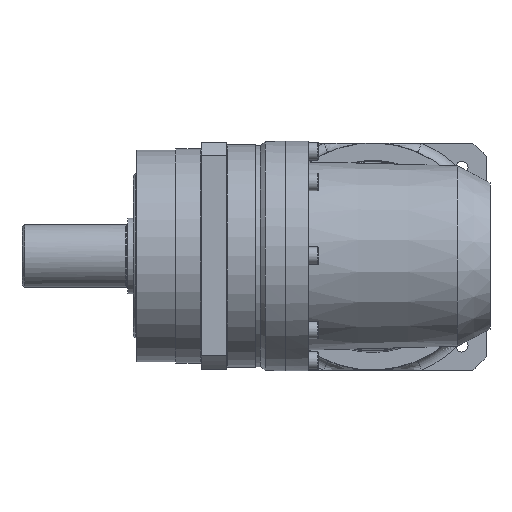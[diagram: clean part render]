
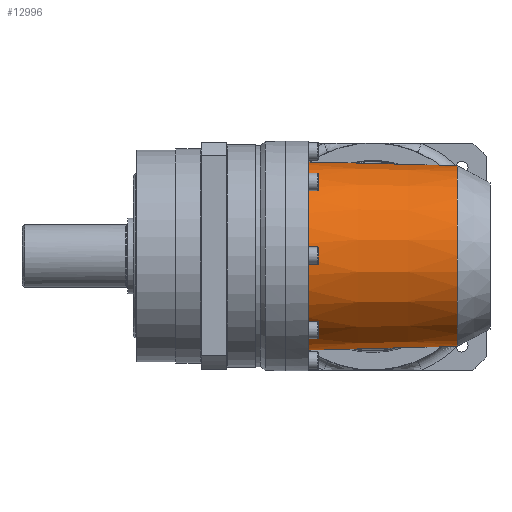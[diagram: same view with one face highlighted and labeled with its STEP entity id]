
A CAD part, top view. The second image highlights one B-rep face of the part: STEP entity #12996.
In plain terms, the highlighted conical face has half-angle 1.493 degrees and reference radius 36.52 mm.
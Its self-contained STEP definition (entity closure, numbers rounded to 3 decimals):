
#734=CONICAL_SURFACE('',#14466,36.52,0.026);
#1446=FACE_OUTER_BOUND('',#2203,.T.);
#2203=EDGE_LOOP('',(#9575,#9576,#9577,#9578,#9579,#9580,#9581,#9582,#9583,
#9584,#9585));
#2990=B_SPLINE_CURVE_WITH_KNOTS('',3,(#21639,#21640,#21641,#21642),
 .UNSPECIFIED.,.F.,.F.,(4,4),(-4.459,-0.312),
 .UNSPECIFIED.);
#2991=B_SPLINE_CURVE_WITH_KNOTS('',3,(#21645,#21646,#21647,#21648,#21649,
#21650),.UNSPECIFIED.,.F.,.F.,(4,2,4),(7.893,8.066,
8.315),.UNSPECIFIED.);
#2992=B_SPLINE_CURVE_WITH_KNOTS('',3,(#21661,#21662,#21663,#21664),
 .UNSPECIFIED.,.F.,.F.,(4,4),(-4.152,-0.005),
 .UNSPECIFIED.);
#2993=B_SPLINE_CURVE_WITH_KNOTS('',3,(#21666,#21667,#21668,#21669,#21670,
#21671),.UNSPECIFIED.,.F.,.F.,(4,2,4),(1.596,1.844,
2.017),.UNSPECIFIED.);
#2994=B_SPLINE_CURVE_WITH_KNOTS('',3,(#21672,#21673,#21674,#21675,#21676,
#21677,#21678,#21679,#21680,#21681,#21682,#21683,#21684,#21685,#21686,#21687,
#21688,#21689,#21690,#21691,#21692,#21693),.UNSPECIFIED.,.F.,.F.,(4,2,2,
2,2,2,2,2,2,2,4),(2.017,2.459,3.083,3.707,
4.331,4.955,5.579,6.203,6.827,
7.451,7.893),.UNSPECIFIED.);
#3239=LINE('',#21654,#3908);
#3908=VECTOR('',#16796,36.52);
#4590=CIRCLE('',#14467,37.29);
#4591=CIRCLE('',#14468,35.75);
#4592=CIRCLE('',#14469,35.75);
#4593=CIRCLE('',#14470,37.29);
#5713=VERTEX_POINT('',#21598);
#5716=VERTEX_POINT('',#21613);
#5717=VERTEX_POINT('',#21644);
#5718=VERTEX_POINT('',#21651);
#5719=VERTEX_POINT('',#21653);
#5720=VERTEX_POINT('',#21655);
#5721=VERTEX_POINT('',#21658);
#5722=VERTEX_POINT('',#21660);
#5723=VERTEX_POINT('',#21665);
#7265=EDGE_CURVE('',#5716,#5713,#2990,.T.);
#7266=EDGE_CURVE('',#5717,#5713,#2991,.T.);
#7267=EDGE_CURVE('',#5718,#5716,#4590,.T.);
#7268=EDGE_CURVE('',#5718,#5719,#3239,.T.);
#7269=EDGE_CURVE('',#5719,#5720,#4591,.T.);
#7270=EDGE_CURVE('',#5720,#5719,#4592,.T.);
#7271=EDGE_CURVE('',#5721,#5718,#4593,.T.);
#7272=EDGE_CURVE('',#5722,#5721,#2992,.T.);
#7273=EDGE_CURVE('',#5722,#5723,#2993,.T.);
#7274=EDGE_CURVE('',#5723,#5717,#2994,.T.);
#9575=ORIENTED_EDGE('',*,*,#7266,.T.);
#9576=ORIENTED_EDGE('',*,*,#7265,.F.);
#9577=ORIENTED_EDGE('',*,*,#7267,.F.);
#9578=ORIENTED_EDGE('',*,*,#7268,.T.);
#9579=ORIENTED_EDGE('',*,*,#7269,.T.);
#9580=ORIENTED_EDGE('',*,*,#7270,.T.);
#9581=ORIENTED_EDGE('',*,*,#7268,.F.);
#9582=ORIENTED_EDGE('',*,*,#7271,.F.);
#9583=ORIENTED_EDGE('',*,*,#7272,.F.);
#9584=ORIENTED_EDGE('',*,*,#7273,.T.);
#9585=ORIENTED_EDGE('',*,*,#7274,.T.);
#12996=ADVANCED_FACE('',(#1446),#734,.T.);
#14466=AXIS2_PLACEMENT_3D('',#21643,#16792,#16793);
#14467=AXIS2_PLACEMENT_3D('',#21652,#16794,#16795);
#14468=AXIS2_PLACEMENT_3D('',#21656,#16797,#16798);
#14469=AXIS2_PLACEMENT_3D('',#21657,#16799,#16800);
#14470=AXIS2_PLACEMENT_3D('',#21659,#16801,#16802);
#16792=DIRECTION('center_axis',(-1.,0.,0.));
#16793=DIRECTION('ref_axis',(0.,-1.,0.));
#16794=DIRECTION('center_axis',(-1.,0.,0.));
#16795=DIRECTION('ref_axis',(0.,0.,1.));
#16796=DIRECTION('',(1.,-0.026,0.));
#16797=DIRECTION('center_axis',(-1.,0.,0.));
#16798=DIRECTION('ref_axis',(0.,0.,1.));
#16799=DIRECTION('center_axis',(-1.,0.,0.));
#16800=DIRECTION('ref_axis',(0.,0.,1.));
#16801=DIRECTION('center_axis',(-1.,0.,0.));
#16802=DIRECTION('ref_axis',(0.,0.,1.));
#21598=CARTESIAN_POINT('',(50.455,-25.979,25.224));
#21613=CARTESIAN_POINT('',(9.,-26.553,26.182));
#21639=CARTESIAN_POINT('Ctrl Pts',(9.,-26.553,26.182));
#21640=CARTESIAN_POINT('Ctrl Pts',(22.818,-26.362,25.863));
#21641=CARTESIAN_POINT('Ctrl Pts',(36.637,-26.17,25.544));
#21642=CARTESIAN_POINT('Ctrl Pts',(50.455,-25.979,25.224));
#21643=CARTESIAN_POINT('Origin',(38.55,0.,0.));
#21644=CARTESIAN_POINT('',(53.981,-23.984,27.005));
#21645=CARTESIAN_POINT('Ctrl Pts',(53.981,-23.984,27.005));
#21646=CARTESIAN_POINT('Ctrl Pts',(53.524,-24.281,26.758));
#21647=CARTESIAN_POINT('Ctrl Pts',(53.058,-24.568,26.51));
#21648=CARTESIAN_POINT('Ctrl Pts',(51.892,-25.245,25.912));
#21649=CARTESIAN_POINT('Ctrl Pts',(51.183,-25.624,25.563));
#21650=CARTESIAN_POINT('Ctrl Pts',(50.455,-25.979,25.224));
#21651=CARTESIAN_POINT('',(9.,37.29,0.));
#21652=CARTESIAN_POINT('Origin',(9.,0.,0.));
#21653=CARTESIAN_POINT('',(68.1,35.75,0.));
#21654=CARTESIAN_POINT('',(38.55,36.52,0.));
#21655=CARTESIAN_POINT('',(68.1,-35.75,0.));
#21656=CARTESIAN_POINT('Origin',(68.1,0.,0.));
#21657=CARTESIAN_POINT('Origin',(68.1,0.,0.));
#21658=CARTESIAN_POINT('',(9.,26.553,26.182));
#21659=CARTESIAN_POINT('Origin',(9.,0.,0.));
#21660=CARTESIAN_POINT('',(50.455,25.979,25.224));
#21661=CARTESIAN_POINT('Ctrl Pts',(50.455,25.979,25.224));
#21662=CARTESIAN_POINT('Ctrl Pts',(36.637,26.17,25.544));
#21663=CARTESIAN_POINT('Ctrl Pts',(22.818,26.362,25.863));
#21664=CARTESIAN_POINT('Ctrl Pts',(9.,26.553,26.182));
#21665=CARTESIAN_POINT('',(53.981,23.984,27.005));
#21666=CARTESIAN_POINT('Ctrl Pts',(50.455,25.979,25.224));
#21667=CARTESIAN_POINT('Ctrl Pts',(51.183,25.624,25.563));
#21668=CARTESIAN_POINT('Ctrl Pts',(51.892,25.245,25.912));
#21669=CARTESIAN_POINT('Ctrl Pts',(53.058,24.568,26.51));
#21670=CARTESIAN_POINT('Ctrl Pts',(53.524,24.281,26.758));
#21671=CARTESIAN_POINT('Ctrl Pts',(53.981,23.984,27.005));
#21672=CARTESIAN_POINT('Ctrl Pts',(53.981,23.984,27.005));
#21673=CARTESIAN_POINT('Ctrl Pts',(55.153,23.221,27.642));
#21674=CARTESIAN_POINT('Ctrl Pts',(56.255,22.395,28.282));
#21675=CARTESIAN_POINT('Ctrl Pts',(58.71,20.295,29.765));
#21676=CARTESIAN_POINT('Ctrl Pts',(60.093,18.881,30.654));
#21677=CARTESIAN_POINT('Ctrl Pts',(62.584,15.725,32.315));
#21678=CARTESIAN_POINT('Ctrl Pts',(63.692,13.983,33.086));
#21679=CARTESIAN_POINT('Ctrl Pts',(65.512,10.258,34.374));
#21680=CARTESIAN_POINT('Ctrl Pts',(66.226,8.272,34.892));
#21681=CARTESIAN_POINT('Ctrl Pts',(67.18,4.182,35.589));
#21682=CARTESIAN_POINT('Ctrl Pts',(67.421,2.08,35.768));
#21683=CARTESIAN_POINT('Ctrl Pts',(67.421,-2.08,35.768));
#21684=CARTESIAN_POINT('Ctrl Pts',(67.18,-4.182,35.589));
#21685=CARTESIAN_POINT('Ctrl Pts',(66.226,-8.272,34.892));
#21686=CARTESIAN_POINT('Ctrl Pts',(65.512,-10.258,34.374));
#21687=CARTESIAN_POINT('Ctrl Pts',(63.692,-13.983,33.086));
#21688=CARTESIAN_POINT('Ctrl Pts',(62.584,-15.725,32.315));
#21689=CARTESIAN_POINT('Ctrl Pts',(60.093,-18.881,30.654));
#21690=CARTESIAN_POINT('Ctrl Pts',(58.71,-20.295,29.765));
#21691=CARTESIAN_POINT('Ctrl Pts',(56.255,-22.395,28.282));
#21692=CARTESIAN_POINT('Ctrl Pts',(55.153,-23.221,27.642));
#21693=CARTESIAN_POINT('Ctrl Pts',(53.981,-23.984,27.005));
